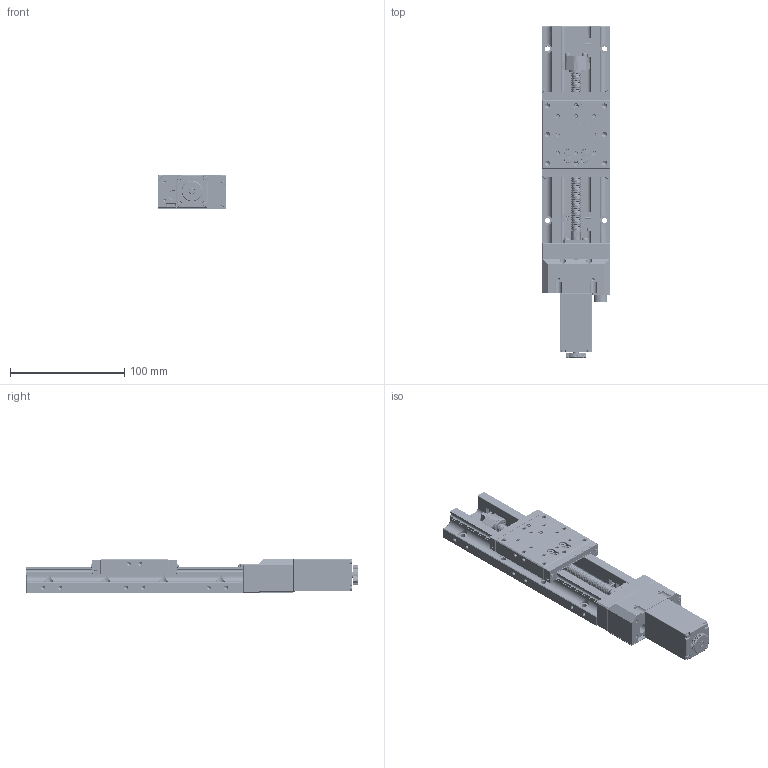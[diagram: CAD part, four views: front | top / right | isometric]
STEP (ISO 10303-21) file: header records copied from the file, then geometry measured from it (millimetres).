
FILE_DESCRIPTION (( 'STEP AP214' ), '1' );
FILE_NAME ('TXH60100B-L2-M28.STEP', '2025-01-03T08:56:14', ( '' ), ( '' ), 'SwSTEP 2.0', 'SolidWorks 2020', '' );
FILE_SCHEMA (( 'AUTOMOTIVE_DESIGN' ));
Length unit declared in the file: millimetre
Products named in the file (1): TXH60100B-L2-M28
Bounding box: 60 x 290.5 x 30.5 mm (x, y, z)
Volume: 279153.2 mm3; surface area: 144938.7 mm2
Topology: 209 solids, 225 shells, 4614 faces, 11726 edges, 7375 vertices
Faces by surface type: plane 1917, cylinder 1359, cone 720, torus 268, sphere 260, bspline 90
Entity records: 216534 total; most frequent: CARTESIAN_POINT 56165, DIRECTION 22531, ORIENTED_EDGE 21988, EDGE_CURVE 10994, AXIS2_PLACEMENT_3D 8339, VERTEX_POINT 7035, LINE 5853, VECTOR 5853
